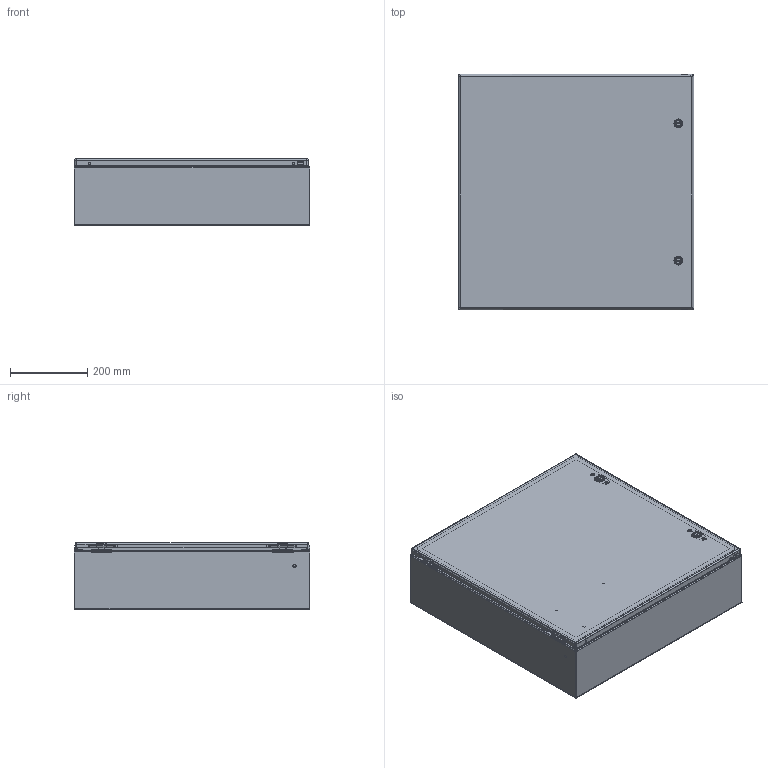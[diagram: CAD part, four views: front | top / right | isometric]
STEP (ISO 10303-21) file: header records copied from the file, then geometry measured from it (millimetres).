
FILE_DESCRIPTION (( 'STEP AP203' ), '1' );
FILE_NAME ('csd24246.STEP', '2012-04-18T19:36:36', ( 'Hoffman User' ), ( 'Hoffman Enclosures' ), 'SwSTEP 2.0', 'SolidWorks 2010', '' );
FILE_SCHEMA (( 'CONFIG_CONTROL_DESIGN' ));
Length unit declared in the file: inch
Products named in the file (27): 64202001; 64210001; 64203001; 87927840_87927840; 87932903; 64138001; 89057564; 87543027; 89076399; 89076193; 89056623; 87929507; 87929767; 87929769_Installed on Pin; csd24246; 87950906; 87755727_default; 23271001_After Weld; 87937933_assy; 87937973_weldment; 87937913; 99401225; 87931362_87931362; 64101001; 64201001; 87541994_Installed Height; 87541995
Assembly tree (43 placements, depth 4):
  csd24246
    87950906
      23271001_After Weld  x4
      87755727_default
      99401225
    87929507  x2
      87929769_Installed on Pin
      87929767
    87937933_assy
      64138001  x2
      87932903  x4
      64101001  x2
        64202001
        87541995
        87541994_Installed Height
        64201001
        87927840_87927840
        64203001
        64210001
      87937973_weldment
        87931362_87931362  x6
        87937913
        99401225
      89057564
    89076399  x2
      89056623
      89076193
    87543027  x2
Bounding box: 609.6 x 609.9 x 173.1 mm (x, y, z)
Volume: 2071856.1 mm3; surface area: 2571653.1 mm2
Topology: 47 solids, 47 shells, 2331 faces, 5754 edges, 3472 vertices
Faces by surface type: plane 851, cylinder 704, bspline 512, cone 132, torus 124, sphere 8
Entity records: 46673 total; most frequent: CARTESIAN_POINT 16355, ORIENTED_EDGE 5918, DIRECTION 5185, EDGE_CURVE 2959, AXIS2_PLACEMENT_3D 1860, VERTEX_POINT 1814, LINE 1465, VECTOR 1465
